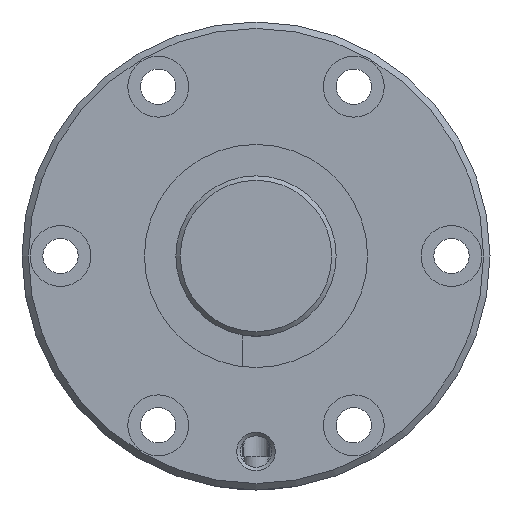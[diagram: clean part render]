
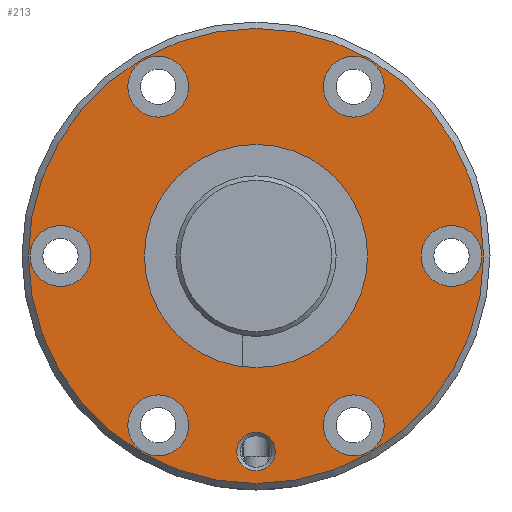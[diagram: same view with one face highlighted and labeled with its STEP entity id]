
A CAD part, left-side view. The second image highlights one B-rep face of the part: STEP entity #213.
In plain terms, the highlighted planar face has unit normal (-1, 0, 0).
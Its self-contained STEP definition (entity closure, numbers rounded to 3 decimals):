
#213 = ADVANCED_FACE( '', ( #359, #360, #361, #362, #363, #364, #365, #366, #367 ), #368, .T. );
#359 = FACE_BOUND( '', #570, .T. );
#360 = FACE_BOUND( '', #571, .T. );
#361 = FACE_BOUND( '', #572, .T. );
#362 = FACE_BOUND( '', #573, .T. );
#363 = FACE_BOUND( '', #574, .T. );
#364 = FACE_BOUND( '', #575, .T. );
#365 = FACE_BOUND( '', #576, .T. );
#366 = FACE_BOUND( '', #577, .T. );
#367 = FACE_OUTER_BOUND( '', #578, .T. );
#368 = PLANE( '', #579 );
#570 = EDGE_LOOP( '', ( #939 ) );
#571 = EDGE_LOOP( '', ( #940 ) );
#572 = EDGE_LOOP( '', ( #941 ) );
#573 = EDGE_LOOP( '', ( #942 ) );
#574 = EDGE_LOOP( '', ( #943 ) );
#575 = EDGE_LOOP( '', ( #944 ) );
#576 = EDGE_LOOP( '', ( #945 ) );
#577 = EDGE_LOOP( '', ( #946 ) );
#578 = EDGE_LOOP( '', ( #947 ) );
#579 = AXIS2_PLACEMENT_3D( '', #948, #949, #950 );
#939 = ORIENTED_EDGE( '', *, *, #1224, .T. );
#940 = ORIENTED_EDGE( '', *, *, #1225, .T. );
#941 = ORIENTED_EDGE( '', *, *, #1161, .T. );
#942 = ORIENTED_EDGE( '', *, *, #1223, .T. );
#943 = ORIENTED_EDGE( '', *, *, #1226, .T. );
#944 = ORIENTED_EDGE( '', *, *, #1227, .T. );
#945 = ORIENTED_EDGE( '', *, *, #1228, .T. );
#946 = ORIENTED_EDGE( '', *, *, #1229, .T. );
#947 = ORIENTED_EDGE( '', *, *, #1230, .F. );
#948 = CARTESIAN_POINT( '', ( 0., 35.5, 0. ) );
#949 = DIRECTION( '', ( -1., 0., 0. ) );
#950 = DIRECTION( '', ( 0., 0., 1. ) );
#1161 = EDGE_CURVE( '', #1307, #1307, #1308, .T. );
#1223 = EDGE_CURVE( '', #1415, #1415, #1416, .T. );
#1224 = EDGE_CURVE( '', #1417, #1417, #1418, .T. );
#1225 = EDGE_CURVE( '', #1419, #1419, #1420, .F. );
#1226 = EDGE_CURVE( '', #1421, #1421, #1422, .T. );
#1227 = EDGE_CURVE( '', #1423, #1423, #1424, .T. );
#1228 = EDGE_CURVE( '', #1425, #1425, #1426, .T. );
#1229 = EDGE_CURVE( '', #1427, #1427, #1428, .T. );
#1230 = EDGE_CURVE( '', #1429, #1429, #1430, .T. );
#1307 = VERTEX_POINT( '', #1646 );
#1308 = CIRCLE( '', #1647, 3. );
#1415 = VERTEX_POINT( '', #2044 );
#1416 = CIRCLE( '', #2045, 4.75 );
#1417 = VERTEX_POINT( '', #2046 );
#1418 = CIRCLE( '', #2047, 17.4 );
#1419 = VERTEX_POINT( '', #2048 );
#1420 = CIRCLE( '', #2049, 4.75 );
#1421 = VERTEX_POINT( '', #2050 );
#1422 = CIRCLE( '', #2051, 4.75 );
#1423 = VERTEX_POINT( '', #2052 );
#1424 = CIRCLE( '', #2053, 4.75 );
#1425 = VERTEX_POINT( '', #2054 );
#1426 = CIRCLE( '', #2055, 4.75 );
#1427 = VERTEX_POINT( '', #2056 );
#1428 = CIRCLE( '', #2057, 4.75 );
#1429 = VERTEX_POINT( '', #2058 );
#1430 = CIRCLE( '', #2059, 35.5 );
#1646 = CARTESIAN_POINT( '', ( 0., 0., -33.5 ) );
#1647 = AXIS2_PLACEMENT_3D( '', #2231, #2232, #2233 );
#2044 = CARTESIAN_POINT( '', ( 0., 15.25, 21.664 ) );
#2045 = AXIS2_PLACEMENT_3D( '', #2345, #2346, #2347 );
#2046 = CARTESIAN_POINT( '', ( 0., 0., -17.4 ) );
#2047 = AXIS2_PLACEMENT_3D( '', #2348, #2349, #2350 );
#2048 = CARTESIAN_POINT( '', ( 0., 30.5, 4.75 ) );
#2049 = AXIS2_PLACEMENT_3D( '', #2351, #2352, #2353 );
#2050 = CARTESIAN_POINT( '', ( 0., -15.25, -31.164 ) );
#2051 = AXIS2_PLACEMENT_3D( '', #2354, #2355, #2356 );
#2052 = CARTESIAN_POINT( '', ( 0., -15.25, 21.664 ) );
#2053 = AXIS2_PLACEMENT_3D( '', #2357, #2358, #2359 );
#2054 = CARTESIAN_POINT( '', ( 0., 15.25, -31.164 ) );
#2055 = AXIS2_PLACEMENT_3D( '', #2360, #2361, #2362 );
#2056 = CARTESIAN_POINT( '', ( 0., -30.5, -4.75 ) );
#2057 = AXIS2_PLACEMENT_3D( '', #2363, #2364, #2365 );
#2058 = CARTESIAN_POINT( '', ( 0., 0., -35.5 ) );
#2059 = AXIS2_PLACEMENT_3D( '', #2366, #2367, #2368 );
#2231 = CARTESIAN_POINT( '', ( 0., 0., -30.5 ) );
#2232 = DIRECTION( '', ( 1., 0., 0. ) );
#2233 = DIRECTION( '', ( 0., 0., -1. ) );
#2345 = CARTESIAN_POINT( '', ( 0., 15.25, 26.414 ) );
#2346 = DIRECTION( '', ( 1., 0., 0. ) );
#2347 = DIRECTION( '', ( 0., 0., -1. ) );
#2348 = CARTESIAN_POINT( '', ( 0., 0., 0. ) );
#2349 = DIRECTION( '', ( 1., 0., 0. ) );
#2350 = DIRECTION( '', ( 0., 0., -1. ) );
#2351 = CARTESIAN_POINT( '', ( 0., 30.5, 0. ) );
#2352 = DIRECTION( '', ( -1., 0., 0. ) );
#2353 = DIRECTION( '', ( 0., 0., 1. ) );
#2354 = CARTESIAN_POINT( '', ( 0., -15.25, -26.414 ) );
#2355 = DIRECTION( '', ( 1., 0., 0. ) );
#2356 = DIRECTION( '', ( 0., 0., -1. ) );
#2357 = CARTESIAN_POINT( '', ( 0., -15.25, 26.414 ) );
#2358 = DIRECTION( '', ( 1., 0., 0. ) );
#2359 = DIRECTION( '', ( 0., 0., -1. ) );
#2360 = CARTESIAN_POINT( '', ( 0., 15.25, -26.414 ) );
#2361 = DIRECTION( '', ( 1., 0., 0. ) );
#2362 = DIRECTION( '', ( 0., 0., -1. ) );
#2363 = CARTESIAN_POINT( '', ( 0., -30.5, 0. ) );
#2364 = DIRECTION( '', ( 1., 0., 0. ) );
#2365 = DIRECTION( '', ( 0., 0., -1. ) );
#2366 = CARTESIAN_POINT( '', ( 0., 0., 0. ) );
#2367 = DIRECTION( '', ( 1., 0., 0. ) );
#2368 = DIRECTION( '', ( 0., 0., -1. ) );
